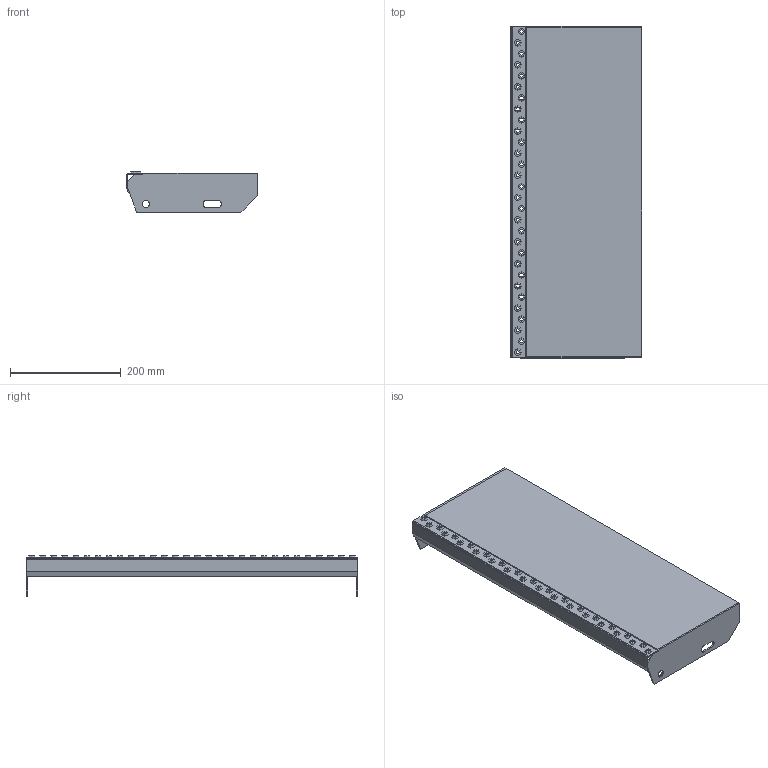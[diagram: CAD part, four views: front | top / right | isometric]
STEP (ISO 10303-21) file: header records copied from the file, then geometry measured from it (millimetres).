
FILE_DESCRIPTION(('Open CASCADE Model'),'2;1');
FILE_NAME('Open CASCADE Shape Model','2019-03-13T09:52:03',('Author'),( 'Open CASCADE'),'Open CASCADE STEP processor 7.2','Open CASCADE 7.2' ,'Unknown');
FILE_SCHEMA(('AUTOMOTIVE_DESIGN { 1 0 10303 214 1 1 1 1 }'));
Length unit declared in the file: millimetre
Products named in the file (4): Open CASCADE STEP translator 7.2 1; Open CASCADE STEP translator 7.2 2; Open CASCADE STEP translator 7.2 3; Open CASCADE STEP translator 7.2 4
Bounding box: 237 x 600 x 73 mm (x, y, z)
Volume: 3245562.8 mm3; surface area: 429154.1 mm2
Topology: 4 solids, 4 shells, 984 faces, 2658 edges, 1772 vertices
Faces by surface type: plane 978, cylinder 6
Full cylindrical faces by diameter (mm): 13 x2
Entity records: 64970 total; most frequent: CARTESIAN_POINT 10827, DIRECTION 9920, LINE 7926, VECTOR 7926, ORIENTED_EDGE 5316, PCURVE 5316, DEFINITIONAL_REPRESENTATION 5316, EDGE_CURVE 2658
